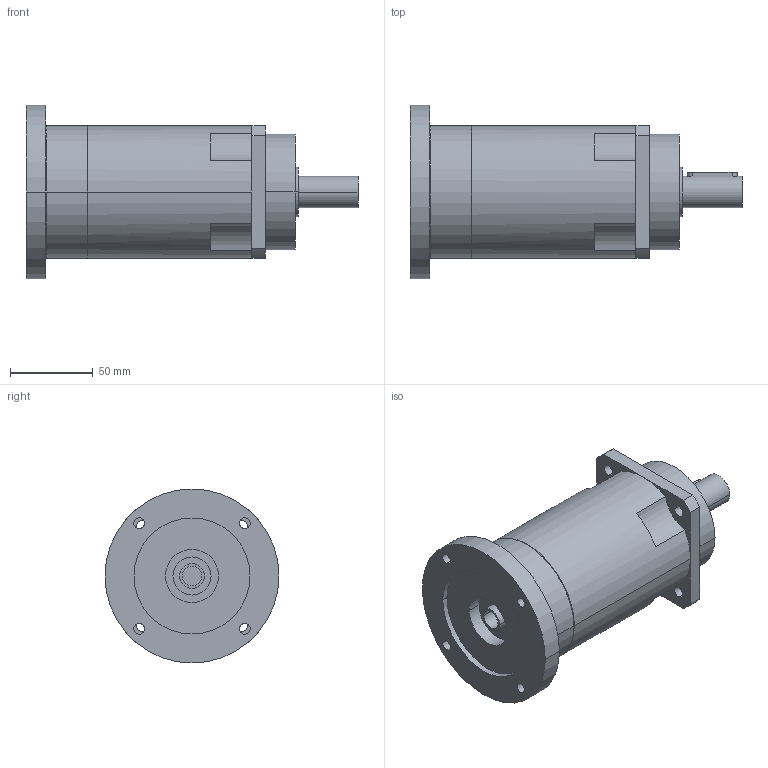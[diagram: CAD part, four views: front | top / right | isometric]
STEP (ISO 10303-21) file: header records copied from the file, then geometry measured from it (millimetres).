
FILE_DESCRIPTION(('CoCreate Modeling STEP Export'),'2;1');
FILE_NAME('GPR100_ig-48-64-80-100-120-144-180-216_19_B5_12_P12.stp','2014-08-26T11:53:59',(''),(''),'CoCreate Modeling STEP processor for AP214 (Solid Model)','CoCreate Modeling 16.00C 25-Feb-2009 (C) Parametric Technology GmbH','');
FILE_SCHEMA(('AUTOMOTIVE_DESIGN { 1 0 10303 214 1 1 1 1 }'));
Length unit declared in the file: millimetre
Products named in the file (2): GPR100_ig-48-64-80-100-120-144-180-216_19_B5_12_P12
Assembly tree (1 placements, depth 2):
  GPR100_ig-48-64-80-100-120-144-180-216_19_B5_12_P12
    GPR100_ig-48-64-80-100-120-144-180-216_19_B5_12_P12
Bounding box: 200.4 x 105 x 105 mm (x, y, z)
Surface area: 69434.1 mm2 (no closed solid volume)
Topology: 0 solids, 1 shells, 95 faces, 268 edges, 184 vertices
Faces by surface type: cylinder 58, plane 31, cone 6
Entity records: 2774 total; most frequent: CARTESIAN_POINT 538, ORIENTED_EDGE 530, DIRECTION 386, EDGE_CURVE 266, VERTEX_POINT 184, AXIS2_PLACEMENT_3D 148, EDGE_LOOP 123, FACE_OUTER_BOUND 95
